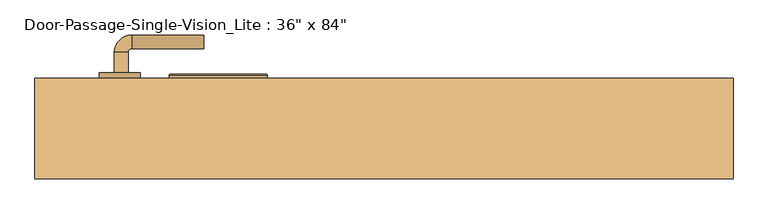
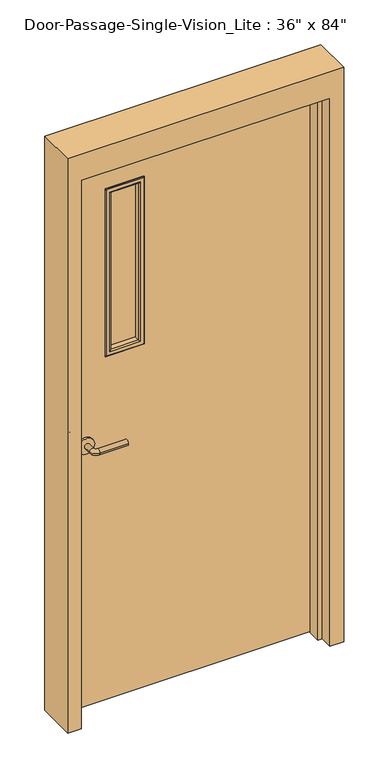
"""IFC4 building model written with IfcOpenShell, lengths in millimetres: door geometry."""

from ifc_helpers import new_model, si_unit, point, frame, frame_2d, origin, place, context, project, spatial, polyline, circle_curve, ellipse_curve, trimmed, segment, composite_curve, outline, extrude, faceted_brep, source, transform, mapped, element, save
from ifc_brep_helpers import plane_surface, cylinder_surface, revolved_surface, advanced_brep


def door_d61f57d2(model_context):
    return source(origin(), model_context, "Body", "SolidModel", [
        advanced_brep(
        [(-392.190625, 30.1, 1016.0), (-372.190625, 30.1, 1016.0), (-372.190625, 0.1, 1016.0), (-392.190625, 0.1, 1016.0), (-367.190625, -4.9, 1016.0), (-367.190625, -24.9, 1016.0), (-262.190625, -24.9, 1016.0), (-262.190625, -4.9, 1016.0)],
        [
            (0, 1, circle_curve(frame((-382.190625, 30.1, 1016.0), z_axis=(0.0, 1.0, 0.0), x_axis=(1.0, 0.0, 0.0)), 10.0)),
            (1, 0, circle_curve(frame((-382.190625, 30.1, 1016.0), z_axis=(0.0, 1.0, 0.0), x_axis=(1.0, 0.0, 0.0)), 10.0)),
            (1, 2),
            (2, 3, circle_curve(frame((-382.190625, 0.1, 1016.0), z_axis=(0.0, 1.0, 0.0), x_axis=(1.0, 0.0, 0.0)), 10.0)),
            (3, 0),
            (3, 2, circle_curve(frame((-382.190625, 0.1, 1016.0), z_axis=(0.0, 1.0, 0.0), x_axis=(1.0, 0.0, 0.0)), 10.0)),
            (4, 5, circle_curve(frame((-367.190625, -14.9, 1016.0), z_axis=(-1.0, 0.0, 0.0), x_axis=(0.0, 1.0, 0.0)), 10.0)),
            (5, 3, circle_curve(frame((-367.190625, 0.1, 1016.0), z_axis=(0.0, 0.0, -1.0), x_axis=(-1.0, 0.0, 0.0)), 25.0)),
            (2, 4, circle_curve(frame((-367.190625, 0.1, 1016.0), z_axis=(0.0, 0.0, 1.0), x_axis=(-1.0, 0.0, 0.0)), 5.0)),
            (5, 4, circle_curve(frame((-367.190625, -14.9, 1016.0), z_axis=(-1.0, 0.0, 0.0), x_axis=(0.0, 1.0, 0.0)), 10.0)),
            (6, 7, circle_curve(frame((-262.190625, -14.9, 1016.0), z_axis=(1.0, 0.0, 0.0), x_axis=(0.0, 1.0, 0.0)), 10.0)),
            (7, 6, circle_curve(frame((-262.190625, -14.9, 1016.0), z_axis=(1.0, 0.0, 0.0), x_axis=(0.0, 1.0, 0.0)), 10.0)),
            (4, 7),
            (6, 5),
        ],
        [
            plane_surface(frame((-382.190625, 30.1, 1016.0), z_axis=(0.0, 1.0, 0.0), x_axis=(0.0, 0.0, 1.0))),
            cylinder_surface(frame((-382.190625, 30.1, 1016.0), z_axis=(0.0, 1.0, 0.0), x_axis=(1.0, 0.0, 0.0)), 10.0),
            revolved_surface(trimmed(ellipse_curve(frame((-382.190625, 0.1, 1016.0), z_axis=(0.0, -1.0, 0.0), x_axis=(1.0, 0.0, 0.0)), 10.0, 10.0), [point((-392.190625, 0.1, 1016.0))], [point((-372.190625, 0.1, 1016.0))], True, "CARTESIAN"), (-367.190625, 0.1, 1016.0), (0.0, 0.0, -1.0)),
            revolved_surface(trimmed(ellipse_curve(frame((-382.190625, 0.1, 1016.0), z_axis=(0.0, -1.0, 0.0), x_axis=(1.0, 0.0, 0.0)), 10.0, 10.0), [point((-372.190625, 0.1, 1016.0))], [point((-392.190625, 0.1, 1016.0))], True, "CARTESIAN"), (-367.190625, 0.1, 1016.0), (0.0, 0.0, -1.0)),
            plane_surface(frame((-262.190625, -14.9, 1016.0), z_axis=(1.0, 0.0, 0.0), x_axis=(0.0, 0.0, 1.0))),
            cylinder_surface(frame((-367.190625, -14.9, 1016.0), z_axis=(-1.0, 0.0, 0.0), x_axis=(0.0, 1.0, 0.0)), 10.0),
        ],
        [
            (0, [[1, 2]]),
            (1, [[3, 4, 5, -2]]),
            (1, [[-5, 6, -3, -1]]),
            (2, [[7, 8, -4, 9]]),
            (3, [[10, -9, -6, -8]]),
            (4, [[11, 12]]),
            (5, [[13, -11, 14, -7]]),
            (5, [[-14, -12, -13, -10]]),
        ],
    ),
        extrude(outline(composite_curve([segment(trimmed(circle_curve(frame_2d((1016.0, -384.690625)), 30.0), [point((1016.0, -414.690625))], [point((1016.0, -354.690625))], False, "CARTESIAN"), True, "CONTINUOUS"), segment(trimmed(circle_curve(frame_2d((1016.0, -384.690625)), 30.0), [point((1016.0, -354.690625))], [point((1016.0, -414.690625))], False, "CARTESIAN"), True, "CONTINUOUS")], self_intersect=False)), frame((0.0, 30.1, 0.0), z_axis=(0.0, 1.0, 0.0), x_axis=(0.0, 0.0, 1.0)), (0.0, 0.0, 1.0), 8.0),
        advanced_brep(
        [(-392.190625, 90.55, 1016.0), (-372.190625, 90.55, 1016.0), (-392.190625, 120.55, 1016.0), (-372.190625, 120.55, 1016.0), (-367.190625, 125.55, 1016.0), (-367.190625, 145.55, 1016.0), (-262.190625, 145.55, 1016.0), (-262.190625, 125.55, 1016.0)],
        [
            (0, 1, circle_curve(frame((-382.190625, 90.55, 1016.0), z_axis=(0.0, -1.0, 0.0), x_axis=(1.0, 0.0, 0.0)), 10.0)),
            (1, 0, circle_curve(frame((-382.190625, 90.55, 1016.0), z_axis=(0.0, -1.0, 0.0), x_axis=(1.0, 0.0, 0.0)), 10.0)),
            (0, 2),
            (2, 3, circle_curve(frame((-382.190625, 120.55, 1016.0), z_axis=(0.0, -1.0, 0.0), x_axis=(1.0, 0.0, 0.0)), 10.0)),
            (3, 1),
            (3, 2, circle_curve(frame((-382.190625, 120.55, 1016.0), z_axis=(0.0, -1.0, 0.0), x_axis=(1.0, 0.0, 0.0)), 10.0)),
            (4, 3, circle_curve(frame((-367.190625, 120.55, 1016.0), z_axis=(0.0, 0.0, 1.0), x_axis=(-1.0, 0.0, 0.0)), 5.0)),
            (2, 5, circle_curve(frame((-367.190625, 120.55, 1016.0), z_axis=(0.0, 0.0, -1.0), x_axis=(-1.0, 0.0, 0.0)), 25.0)),
            (5, 4, circle_curve(frame((-367.190625, 135.55, 1016.0), z_axis=(-1.0, 0.0, 0.0), x_axis=(0.0, -1.0, 0.0)), 10.0)),
            (4, 5, circle_curve(frame((-367.190625, 135.55, 1016.0), z_axis=(-1.0, 0.0, 0.0), x_axis=(0.0, -1.0, 0.0)), 10.0)),
            (6, 7, circle_curve(frame((-262.190625, 135.55, 1016.0), z_axis=(1.0, 0.0, 0.0), x_axis=(0.0, -1.0, 0.0)), 10.0)),
            (7, 6, circle_curve(frame((-262.190625, 135.55, 1016.0), z_axis=(1.0, 0.0, 0.0), x_axis=(0.0, -1.0, 0.0)), 10.0)),
            (5, 6),
            (7, 4),
        ],
        [
            plane_surface(frame((-382.190625, 90.55, 1016.0), z_axis=(0.0, -1.0, 0.0), x_axis=(0.0, 0.0, 1.0))),
            cylinder_surface(frame((-382.190625, 90.55, 1016.0), z_axis=(0.0, -1.0, 0.0), x_axis=(1.0, 0.0, 0.0)), 10.0),
            revolved_surface(trimmed(ellipse_curve(frame((-382.190625, 120.55, 1016.0), z_axis=(0.0, -1.0, 0.0), x_axis=(1.0, 0.0, 0.0)), 10.0, 10.0), [point((-392.190625, 120.55, 1016.0))], [point((-372.190625, 120.55, 1016.0))], True, "CARTESIAN"), (-367.190625, 120.55, 1016.0), (0.0, 0.0, -1.0)),
            revolved_surface(trimmed(ellipse_curve(frame((-382.190625, 120.55, 1016.0), z_axis=(0.0, -1.0, 0.0), x_axis=(1.0, 0.0, 0.0)), 10.0, 10.0), [point((-372.190625, 120.55, 1016.0))], [point((-392.190625, 120.55, 1016.0))], True, "CARTESIAN"), (-367.190625, 120.55, 1016.0), (0.0, 0.0, -1.0)),
            plane_surface(frame((-262.190625, 135.55, 1016.0), z_axis=(1.0, 0.0, 0.0), x_axis=(0.0, 0.0, 1.0))),
            cylinder_surface(frame((-367.190625, 135.55, 1016.0), z_axis=(-1.0, 0.0, 0.0), x_axis=(0.0, -1.0, 0.0)), 10.0),
        ],
        [
            (0, [[1, 2]]),
            (1, [[-1, 3, 4, 5]]),
            (1, [[-2, -5, 6, -3]]),
            (2, [[7, -4, 8, 9]]),
            (3, [[-8, -6, -7, 10]]),
            (4, [[11, 12]]),
            (5, [[-9, 13, -12, 14]]),
            (5, [[-10, -14, -11, -13]]),
        ],
    ),
        extrude(outline(composite_curve([segment(trimmed(circle_curve(frame_2d((1016.0, -384.690625)), 30.0), [point((1016.0, -414.690625))], [point((1016.0, -354.690625))], False, "CARTESIAN"), True, "CONTINUOUS"), segment(trimmed(circle_curve(frame_2d((1016.0, -384.690625)), 30.0), [point((1016.0, -354.690625))], [point((1016.0, -414.690625))], False, "CARTESIAN"), True, "CONTINUOUS")], self_intersect=False)), frame((0.0, 82.55, 0.0), z_axis=(0.0, 1.0, 0.0), x_axis=(0.0, 0.0, 1.0)), (0.0, 0.0, 1.0), 8.0),
        faceted_brep([(457.2, 33.3375, 0.0), (457.2, 82.55, 0.0), (508.0, 82.55, 0.0), (508.0, -63.5, 0.0), (457.2, -63.5, 0.0), (457.2, -14.2875, 0.0), (441.325, -14.2875, 0.0), (441.325, 33.3375, 0.0), (457.2, 33.3375, 2133.6), (457.2, 82.55, 2133.6), (-457.2, 82.55, 2133.6), (-457.2, 82.55, 0.0), (-508.0, 82.55, 0.0), (-508.0, 82.55, 2235.2), (508.0, 82.55, 2235.2), (508.0, -63.5, 2235.2), (-508.0, -63.5, 2235.2), (-508.0, -63.5, 0.0), (-457.2, -63.5, 0.0), (-457.2, -63.5, 2133.6), (457.2, -63.5, 2133.6), (457.2, -14.2875, 2133.6), (-457.2, -14.2875, 2133.6), (-457.2, -14.2875, 0.0), (-441.325, -14.2875, 0.0), (-441.325, -14.2875, 2117.725), (441.325, -14.2875, 2117.725), (441.325, 33.3375, 2117.725), (-441.325, 33.3375, 2117.725), (-441.325, 33.3375, 0.0), (-457.2, 33.3375, 0.0), (-457.2, 33.3375, 2133.6)], [[[0, 1, 2, 3, 4, 5, 6, 7]], [[1, 0, 8, 9]], [[2, 1, 9, 10, 11, 12, 13, 14]], [[3, 2, 14, 15]], [[4, 3, 15, 16, 17, 18, 19, 20]], [[5, 4, 20, 21]], [[6, 5, 21, 22, 23, 24, 25, 26]], [[7, 6, 26, 27]], [[0, 7, 27, 28, 29, 30, 31, 8]], [[9, 8, 31, 10]], [[20, 19, 22, 21]], [[26, 25, 28, 27]], [[12, 11, 30, 29, 24, 23, 18, 17]], [[11, 10, 31, 30]], [[13, 12, 17, 16]], [[19, 18, 23, 22]], [[25, 24, 29, 28]], [[15, 14, 13, 16]]]),
        extrude(outline(polyline([(2133.6, -457.2), (0.0, -457.2), (0.0, 457.2), (2133.6, 457.2), (2133.6, -457.2)]), holes=[polyline([(1981.2, -304.8), (1981.2, -177.8), (1346.2, -177.8), (1346.2, -304.8), (1981.2, -304.8)])]), frame((0.0, 38.1, 0.0), z_axis=(0.0, 1.0, 0.0), x_axis=(0.0, 0.0, 1.0)), (0.0, 0.0, 1.0), 44.45),
        extrude(outline(polyline([(-177.8, 57.15), (-304.8, 57.15), (-304.8, 63.5), (-177.8, 63.5), (-177.8, 57.15)])), frame((0.0, 0.0, 1346.2), z_axis=(0.0, 0.0, 1.0), x_axis=(1.0, 0.0, 0.0)), (0.0, 0.0, 1.0), 635.0),
        advanced_brep(
        [(-304.8, 57.15, 1346.2), (-304.8, 38.1, 1346.2), (-304.8, 38.1, 1981.2), (-304.8, 57.15, 1981.2), (-292.8, 37.1, 1358.2), (-292.8, 57.15, 1358.2), (-292.8, 57.15, 1969.2), (-292.8, 37.1, 1969.2), (-297.8, 32.1, 1353.2), (-297.8, 32.1, 1974.2), (-312.8, 34.1, 1338.2), (-310.8, 32.1, 1340.2), (-310.8, 32.1, 1987.2), (-312.8, 34.1, 1989.2), (-312.8, 38.1, 1338.2), (-312.8, 38.1, 1989.2), (-177.8, 38.1, 1981.2), (-177.8, 57.15, 1981.2), (-189.8, 57.15, 1969.2), (-189.8, 37.1, 1969.2), (-184.8, 32.1, 1974.2), (-171.8, 32.1, 1987.2), (-169.8, 34.1, 1989.2), (-169.8, 38.1, 1989.2), (-177.8, 38.1, 1346.2), (-177.8, 57.15, 1346.2), (-189.8, 57.15, 1358.2), (-189.8, 37.1, 1358.2), (-184.8, 32.1, 1353.2), (-171.8, 32.1, 1340.2), (-169.8, 34.1, 1338.2), (-169.8, 38.1, 1338.2)],
        [
            (0, 1),
            (1, 2),
            (2, 3),
            (3, 0),
            (4, 5),
            (5, 6),
            (6, 7),
            (7, 4),
            (8, 4, ellipse_curve(frame((-297.8, 37.1, 1353.2), z_axis=(-0.7071067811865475, 0.0, 0.7071067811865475), x_axis=(-0.7071067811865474, 0.0, -0.7071067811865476)), 7.0710678, 5.0)),
            (7, 9, ellipse_curve(frame((-297.8, 37.1, 1974.2), z_axis=(-0.7071067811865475, 0.0, -0.7071067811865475), x_axis=(0.7071067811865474, 0.0, -0.7071067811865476)), 7.0710678, 5.0)),
            (9, 8),
            (10, 11, ellipse_curve(frame((-310.8, 34.1, 1340.2), z_axis=(-0.7071067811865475, 0.0, 0.7071067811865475), x_axis=(-0.7071067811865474, 0.0, -0.7071067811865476)), 2.8284271, 2.0)),
            (11, 12),
            (12, 13, ellipse_curve(frame((-310.8, 34.1, 1987.2), z_axis=(-0.7071067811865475, 0.0, -0.7071067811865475), x_axis=(0.7071067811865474, 0.0, -0.7071067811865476)), 2.8284271, 2.0)),
            (13, 10),
            (14, 10),
            (13, 15),
            (15, 14),
            (2, 16),
            (16, 17),
            (17, 3),
            (6, 18),
            (18, 19),
            (19, 7),
            (19, 20, ellipse_curve(frame((-184.8, 37.1, 1974.2), z_axis=(-0.7071067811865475, 0.0, 0.7071067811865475), x_axis=(-0.7071067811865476, 0.0, -0.7071067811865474)), 7.0710678, 5.0)),
            (20, 9),
            (12, 21),
            (21, 22, ellipse_curve(frame((-171.8, 34.1, 1987.2), z_axis=(-0.7071067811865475, 0.0, 0.7071067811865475), x_axis=(-0.7071067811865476, 0.0, -0.7071067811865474)), 2.8284271, 2.0)),
            (22, 13),
            (22, 23),
            (23, 15),
            (16, 24),
            (24, 25),
            (25, 17),
            (18, 26),
            (26, 27),
            (27, 19),
            (27, 28, ellipse_curve(frame((-184.8, 37.1, 1353.2), z_axis=(0.7071067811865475, 0.0, 0.7071067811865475), x_axis=(-0.7071067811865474, 0.0, 0.7071067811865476)), 7.0710678, 5.0)),
            (28, 20),
            (21, 29),
            (29, 30, ellipse_curve(frame((-171.8, 34.1, 1340.2), z_axis=(0.7071067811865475, 0.0, 0.7071067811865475), x_axis=(-0.7071067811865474, 0.0, 0.7071067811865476)), 2.8284271, 2.0)),
            (30, 22),
            (30, 31),
            (31, 23),
            (31, 14),
            (1, 24),
            (0, 25),
            (5, 26),
            (4, 27),
            (8, 28),
            (11, 29),
            (10, 30),
        ],
        [
            plane_surface(frame((-304.8, 38.1, 1346.2), z_axis=(-1.0, 0.0, 0.0), x_axis=(0.0, 0.0, 1.0))),
            plane_surface(frame((-292.8, 57.15, 1358.2), z_axis=(1.0, 0.0, 0.0), x_axis=(0.0, 0.0, 1.0))),
            cylinder_surface(frame((-297.8, 37.1, 1346.2), z_axis=(0.0, 0.0, -1.0), x_axis=(-1.0, 0.0, 0.0)), 5.0),
            cylinder_surface(frame((-310.8, 34.1, 1346.2), z_axis=(0.0, 0.0, -1.0), x_axis=(-1.0, 0.0, 0.0)), 2.0),
            plane_surface(frame((-312.8, 34.1, 1338.2), z_axis=(-1.0, 0.0, 0.0), x_axis=(0.0, 0.0, 1.0))),
            plane_surface(frame((-304.8, 38.1, 1981.2), z_axis=(0.0, 0.0, 1.0), x_axis=(1.0, 0.0, 0.0))),
            plane_surface(frame((-292.8, 57.15, 1969.2), z_axis=(0.0, 0.0, -1.0), x_axis=(1.0, 0.0, 0.0))),
            cylinder_surface(frame((-304.8, 37.1, 1974.2), z_axis=(-1.0, 0.0, 0.0), x_axis=(0.0, 0.0, 1.0)), 5.0),
            cylinder_surface(frame((-304.8, 34.1, 1987.2), z_axis=(-1.0, 0.0, 0.0), x_axis=(0.0, 0.0, 1.0)), 2.0),
            plane_surface(frame((-312.8, 34.1, 1989.2), z_axis=(0.0, 0.0, 1.0), x_axis=(1.0, 0.0, 0.0))),
            plane_surface(frame((-177.8, 38.1, 1981.2), z_axis=(1.0, 0.0, 0.0), x_axis=(0.0, 0.0, -1.0))),
            plane_surface(frame((-189.8, 57.15, 1969.2), z_axis=(-1.0, 0.0, 0.0), x_axis=(0.0, 0.0, -1.0))),
            cylinder_surface(frame((-184.8, 37.1, 1981.2), z_axis=(0.0, 0.0, 1.0), x_axis=(1.0, 0.0, 0.0)), 5.0),
            cylinder_surface(frame((-171.8, 34.1, 1981.2), z_axis=(0.0, 0.0, 1.0), x_axis=(1.0, 0.0, 0.0)), 2.0),
            plane_surface(frame((-169.8, 34.1, 1989.2), z_axis=(1.0, 0.0, 0.0), x_axis=(0.0, 0.0, -1.0))),
            plane_surface(frame((-169.8, 38.1, 1338.2), z_axis=(0.0, 1.0, 0.0), x_axis=(-1.0, 0.0, 0.0))),
            plane_surface(frame((-177.8, 38.1, 1346.2), z_axis=(0.0, 0.0, -1.0), x_axis=(-1.0, 0.0, 0.0))),
            plane_surface(frame((-177.8, 57.15, 1346.2), z_axis=(0.0, 1.0, 0.0), x_axis=(-1.0, 0.0, 0.0))),
            plane_surface(frame((-189.8, 57.15, 1358.2), z_axis=(0.0, 0.0, 1.0), x_axis=(-1.0, 0.0, 0.0))),
            cylinder_surface(frame((-177.8, 37.1, 1353.2), z_axis=(1.0, 0.0, 0.0), x_axis=(0.0, 0.0, -1.0)), 5.0),
            plane_surface(frame((-184.8, 32.1, 1353.2), z_axis=(0.0, -1.0, 0.0), x_axis=(-1.0, 0.0, 0.0))),
            cylinder_surface(frame((-177.8, 34.1, 1340.2), z_axis=(1.0, 0.0, 0.0), x_axis=(0.0, 0.0, -1.0)), 2.0),
            plane_surface(frame((-169.8, 34.1, 1338.2), z_axis=(0.0, 0.0, -1.0), x_axis=(-1.0, 0.0, 0.0))),
        ],
        [
            (0, [[1, 2, 3, 4]]),
            (1, [[5, 6, 7, 8]]),
            (2, [[9, -8, 10, 11]]),
            (3, [[12, 13, 14, 15]]),
            (4, [[16, -15, 17, 18]]),
            (5, [[-3, 19, 20, 21]]),
            (6, [[-7, 22, 23, 24]]),
            (7, [[-10, -24, 25, 26]]),
            (8, [[-14, 27, 28, 29]]),
            (9, [[-17, -29, 30, 31]]),
            (10, [[-20, 32, 33, 34]]),
            (11, [[-23, 35, 36, 37]]),
            (12, [[-25, -37, 38, 39]]),
            (13, [[-28, 40, 41, 42]]),
            (14, [[-30, -42, 43, 44]]),
            (15, [[-31, -44, 45, -18], [46, -32, -19, -2]]),
            (16, [[-33, -46, -1, 47]]),
            (17, [[-21, -34, -47, -4], [48, -35, -22, -6]]),
            (18, [[-36, -48, -5, 49]]),
            (19, [[-38, -49, -9, 50]]),
            (20, [[51, -40, -27, -13], [-26, -39, -50, -11]]),
            (21, [[-41, -51, -12, 52]]),
            (22, [[-43, -52, -16, -45]]),
        ],
    ),
        advanced_brep(
        [(-304.8, 63.5, 1981.2), (-304.8, 82.55, 1981.2), (-304.8, 82.55, 1346.2), (-304.8, 63.5, 1346.2), (-292.8, 83.55, 1969.2), (-292.8, 63.5, 1969.2), (-292.8, 63.5, 1358.2), (-292.8, 83.55, 1358.2), (-297.8, 88.55, 1974.2), (-297.8, 88.55, 1353.2), (-312.8, 86.55, 1989.2), (-310.8, 88.55, 1987.2), (-310.8, 88.55, 1340.2), (-312.8, 86.55, 1338.2), (-312.8, 82.55, 1989.2), (-312.8, 82.55, 1338.2), (-177.8, 82.55, 1346.2), (-177.8, 63.5, 1346.2), (-189.8, 63.5, 1358.2), (-189.8, 83.55, 1358.2), (-184.8, 88.55, 1353.2), (-171.8, 88.55, 1340.2), (-169.8, 86.55, 1338.2), (-169.8, 82.55, 1338.2), (-177.8, 82.55, 1981.2), (-177.8, 63.5, 1981.2), (-189.8, 63.5, 1969.2), (-189.8, 83.55, 1969.2), (-184.8, 88.55, 1974.2), (-171.8, 88.55, 1987.2), (-169.8, 86.55, 1989.2), (-169.8, 82.55, 1989.2)],
        [
            (0, 1),
            (1, 2),
            (2, 3),
            (3, 0),
            (4, 5),
            (5, 6),
            (6, 7),
            (7, 4),
            (8, 4, ellipse_curve(frame((-297.8, 83.55, 1974.2), z_axis=(-0.7071067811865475, 0.0, -0.7071067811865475), x_axis=(-0.7071067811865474, 0.0, 0.7071067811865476)), 7.0710678, 5.0)),
            (7, 9, ellipse_curve(frame((-297.8, 83.55, 1353.2), z_axis=(-0.7071067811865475, 0.0, 0.7071067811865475), x_axis=(0.7071067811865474, 0.0, 0.7071067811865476)), 7.0710678, 5.0)),
            (9, 8),
            (10, 11, ellipse_curve(frame((-310.8, 86.55, 1987.2), z_axis=(-0.7071067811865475, 0.0, -0.7071067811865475), x_axis=(-0.7071067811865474, 0.0, 0.7071067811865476)), 2.8284271, 2.0)),
            (11, 12),
            (12, 13, ellipse_curve(frame((-310.8, 86.55, 1340.2), z_axis=(-0.7071067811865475, 0.0, 0.7071067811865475), x_axis=(0.7071067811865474, 0.0, 0.7071067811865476)), 2.8284271, 2.0)),
            (13, 10),
            (14, 10),
            (13, 15),
            (15, 14),
            (2, 16),
            (16, 17),
            (17, 3),
            (6, 18),
            (18, 19),
            (19, 7),
            (19, 20, ellipse_curve(frame((-184.8, 83.55, 1353.2), z_axis=(-0.7071067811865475, 0.0, -0.7071067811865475), x_axis=(-0.7071067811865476, 0.0, 0.7071067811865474)), 7.0710678, 5.0)),
            (20, 9),
            (12, 21),
            (21, 22, ellipse_curve(frame((-171.8, 86.55, 1340.2), z_axis=(-0.7071067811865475, 0.0, -0.7071067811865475), x_axis=(-0.7071067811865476, 0.0, 0.7071067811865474)), 2.8284271, 2.0)),
            (22, 13),
            (22, 23),
            (23, 15),
            (16, 24),
            (24, 25),
            (25, 17),
            (18, 26),
            (26, 27),
            (27, 19),
            (27, 28, ellipse_curve(frame((-184.8, 83.55, 1974.2), z_axis=(0.7071067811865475, 0.0, -0.7071067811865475), x_axis=(-0.7071067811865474, 0.0, -0.7071067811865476)), 7.0710678, 5.0)),
            (28, 20),
            (21, 29),
            (29, 30, ellipse_curve(frame((-171.8, 86.55, 1987.2), z_axis=(0.7071067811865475, 0.0, -0.7071067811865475), x_axis=(-0.7071067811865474, 0.0, -0.7071067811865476)), 2.8284271, 2.0)),
            (30, 22),
            (30, 31),
            (31, 23),
            (31, 14),
            (1, 24),
            (0, 25),
            (5, 26),
            (4, 27),
            (8, 28),
            (11, 29),
            (10, 30),
        ],
        [
            plane_surface(frame((-304.8, 82.55, 1981.2), z_axis=(-1.0, 0.0, 0.0), x_axis=(0.0, 0.0, -1.0))),
            plane_surface(frame((-292.8, 63.5, 1969.2), z_axis=(1.0, 0.0, 0.0), x_axis=(0.0, 0.0, -1.0))),
            cylinder_surface(frame((-297.8, 83.55, 1981.2), z_axis=(0.0, 0.0, 1.0), x_axis=(-1.0, 0.0, 0.0)), 5.0),
            cylinder_surface(frame((-310.8, 86.55, 1981.2), z_axis=(0.0, 0.0, 1.0), x_axis=(-1.0, 0.0, 0.0)), 2.0),
            plane_surface(frame((-312.8, 86.55, 1989.2), z_axis=(-1.0, 0.0, 0.0), x_axis=(0.0, 0.0, -1.0))),
            plane_surface(frame((-304.8, 82.55, 1346.2), z_axis=(0.0, 0.0, -1.0), x_axis=(1.0, 0.0, 0.0))),
            plane_surface(frame((-292.8, 63.5, 1358.2), z_axis=(0.0, 0.0, 1.0), x_axis=(1.0, 0.0, 0.0))),
            cylinder_surface(frame((-304.8, 83.55, 1353.2), z_axis=(-1.0, 0.0, 0.0), x_axis=(0.0, 0.0, -1.0)), 5.0),
            cylinder_surface(frame((-304.8, 86.55, 1340.2), z_axis=(-1.0, 0.0, 0.0), x_axis=(0.0, 0.0, -1.0)), 2.0),
            plane_surface(frame((-312.8, 86.55, 1338.2), z_axis=(0.0, 0.0, -1.0), x_axis=(1.0, 0.0, 0.0))),
            plane_surface(frame((-177.8, 82.55, 1346.2), z_axis=(1.0, 0.0, 0.0), x_axis=(0.0, 0.0, 1.0))),
            plane_surface(frame((-189.8, 63.5, 1358.2), z_axis=(-1.0, 0.0, 0.0), x_axis=(0.0, 0.0, 1.0))),
            cylinder_surface(frame((-184.8, 83.55, 1346.2), z_axis=(0.0, 0.0, -1.0), x_axis=(1.0, 0.0, 0.0)), 5.0),
            cylinder_surface(frame((-171.8, 86.55, 1346.2), z_axis=(0.0, 0.0, -1.0), x_axis=(1.0, 0.0, 0.0)), 2.0),
            plane_surface(frame((-169.8, 86.55, 1338.2), z_axis=(1.0, 0.0, 0.0), x_axis=(0.0, 0.0, 1.0))),
            plane_surface(frame((-169.8, 82.55, 1989.2), z_axis=(0.0, -1.0, 0.0), x_axis=(-1.0, 0.0, 0.0))),
            plane_surface(frame((-177.8, 82.55, 1981.2), z_axis=(0.0, 0.0, 1.0), x_axis=(-1.0, 0.0, 0.0))),
            plane_surface(frame((-177.8, 63.5, 1981.2), z_axis=(0.0, -1.0, 0.0), x_axis=(-1.0, 0.0, 0.0))),
            plane_surface(frame((-189.8, 63.5, 1969.2), z_axis=(0.0, 0.0, -1.0), x_axis=(-1.0, 0.0, 0.0))),
            cylinder_surface(frame((-177.8, 83.55, 1974.2), z_axis=(1.0, 0.0, 0.0), x_axis=(0.0, 0.0, 1.0)), 5.0),
            plane_surface(frame((-184.8, 88.55, 1974.2), z_axis=(0.0, 1.0, 0.0), x_axis=(-1.0, 0.0, 0.0))),
            cylinder_surface(frame((-177.8, 86.55, 1987.2), z_axis=(1.0, 0.0, 0.0), x_axis=(0.0, 0.0, 1.0)), 2.0),
            plane_surface(frame((-169.8, 86.55, 1989.2), z_axis=(0.0, 0.0, 1.0), x_axis=(-1.0, 0.0, 0.0))),
        ],
        [
            (0, [[1, 2, 3, 4]]),
            (1, [[5, 6, 7, 8]]),
            (2, [[9, -8, 10, 11]]),
            (3, [[12, 13, 14, 15]]),
            (4, [[16, -15, 17, 18]]),
            (5, [[-3, 19, 20, 21]]),
            (6, [[-7, 22, 23, 24]]),
            (7, [[-10, -24, 25, 26]]),
            (8, [[-14, 27, 28, 29]]),
            (9, [[-17, -29, 30, 31]]),
            (10, [[-20, 32, 33, 34]]),
            (11, [[-23, 35, 36, 37]]),
            (12, [[-25, -37, 38, 39]]),
            (13, [[-28, 40, 41, 42]]),
            (14, [[-30, -42, 43, 44]]),
            (15, [[-31, -44, 45, -18], [46, -32, -19, -2]]),
            (16, [[-33, -46, -1, 47]]),
            (17, [[-21, -34, -47, -4], [48, -35, -22, -6]]),
            (18, [[-36, -48, -5, 49]]),
            (19, [[-38, -49, -9, 50]]),
            (20, [[51, -40, -27, -13], [-26, -39, -50, -11]]),
            (21, [[-41, -51, -12, 52]]),
            (22, [[-43, -52, -16, -45]]),
        ],
    ),
    ])


if __name__ == "__main__":
    model = new_model("IFC4")
    model_context = context("Model", 3, world=origin())
    ifc_project = project(units=[si_unit("LENGTHUNIT", "METRE", prefix="MILLI")], contexts=[model_context])
    site = spatial("IfcSite", under=ifc_project)
    building = spatial("IfcBuilding", under=site)
    placement = place(None, origin())
    door_shape = door_d61f57d2(model_context)
    element("IfcDoor", 1, ObjectType="Door-Passage-Single-Vision_Lite : 36\" x 84\"", at=placement, inside=building, context=model_context, shape_type="MappedRepresentation", body=[
        mapped(door_shape, transform((0.0, 0.0, 0.0), x_axis=(1.0, 0.0, 0.0), y_axis=(0.0, 1.0, 0.0), z_axis=(0.0, 0.0, 1.0))),
    ])
    save(model, "model.ifc")
